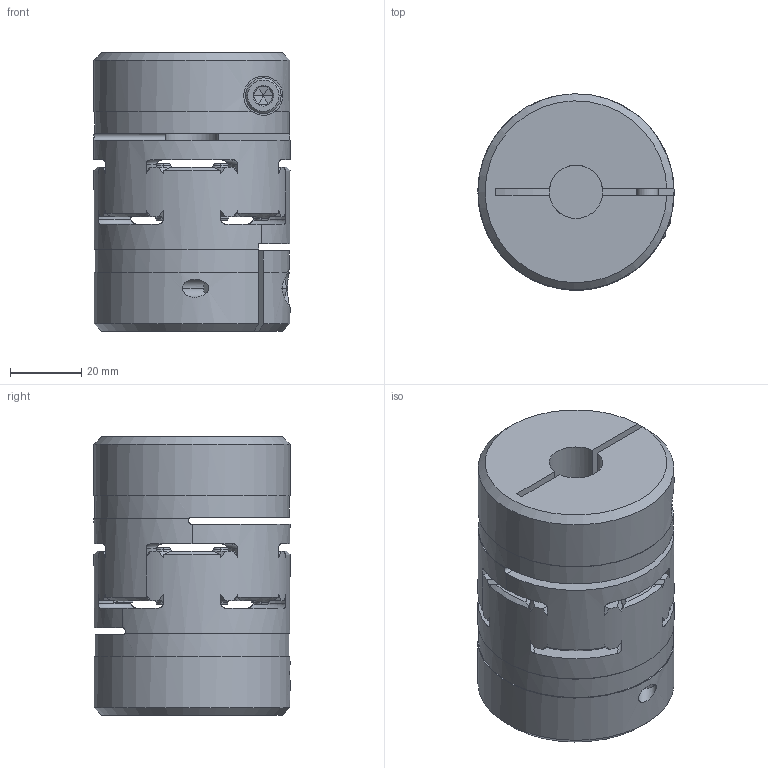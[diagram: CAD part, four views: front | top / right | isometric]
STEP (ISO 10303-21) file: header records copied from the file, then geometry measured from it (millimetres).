
FILE_DESCRIPTION((''),'2;1');
FILE_NAME('ROBA-ES__SIZE_24_TYPE_940_000','2021-05-11T11:05:20',('procad'),('Chr. Mayr GmbH + Co. KG'),'CREO PARAMETRIC BY PTC INC, 2019471','CREO PARAMETRIC BY PTC INC, 2019471','');
FILE_SCHEMA(('CONFIG_CONTROL_DESIGN','SHAPE_APPEARANCE_LAYERS_GROUPS'));
Length unit declared in the file: millimetre
Products named in the file (1): ROBA-ES__SIZE_24_TYPE_940_000
Bounding box: 55 x 55 x 78 mm (x, y, z)
Volume: 149488.4 mm3; surface area: 38870.7 mm2
Topology: 1 solids, 1 shells, 443 faces, 1218 edges, 774 vertices
Faces by surface type: plane 195, cylinder 102, cone 90, torus 56
Entity records: 19046 total; most frequent: CARTESIAN_POINT 4036, ORIENTED_EDGE 2436, DIRECTION 2348, EDGE_CURVE 1218, AXIS2_PLACEMENT_3D 899, VERTEX_POINT 774, FILL_AREA_STYLE_COLOUR 551, FILL_AREA_STYLE 551
